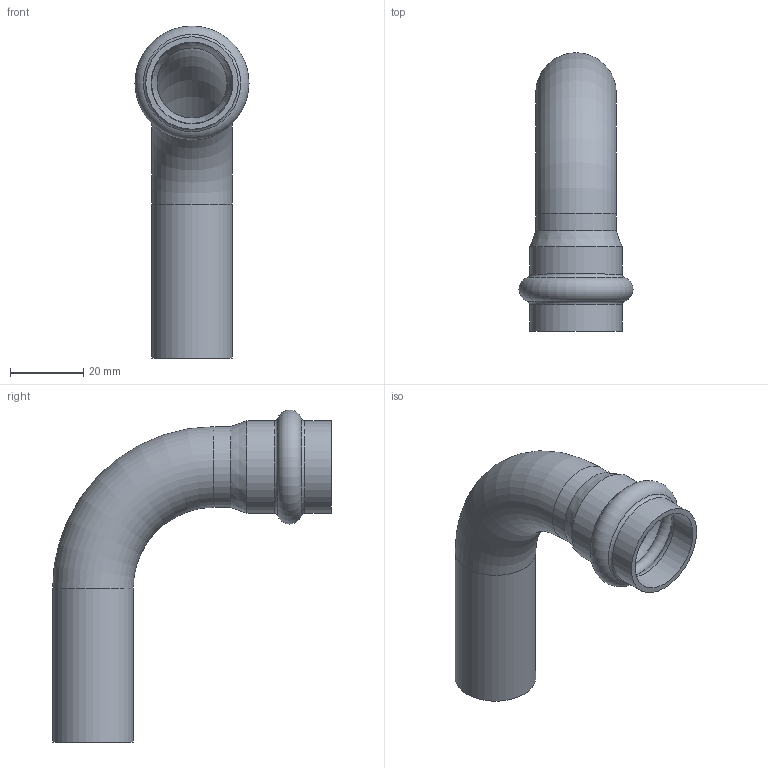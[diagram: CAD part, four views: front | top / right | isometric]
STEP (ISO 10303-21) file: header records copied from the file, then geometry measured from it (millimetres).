
FILE_DESCRIPTION(('STEP AP203'), '1');
FILE_NAME('VTi.950.I.002222', '', ('UNSPECIFIED'), ('UNSPECIFIED'), 'C3D Converter', 'C3D Toolkit', '');
FILE_SCHEMA(('CONFIG_CONTROL_DESIGN'));
Length unit declared in the file: millimetre
Products named in the file (1): ВР.302661.026.000 СБ
Bounding box: 31.1 x 76 x 90.55 mm (x, y, z)
Volume: 13271.5 mm3; surface area: 17692.3 mm2
Topology: 1 solids, 1 shells, 21 faces, 44 edges, 25 vertices
Faces by surface type: torus 9, cylinder 8, plane 2, cone 2
Full cylindrical faces by diameter (mm): 19.1 x2, 22 x2, 22.3 x2, 25.2 x2
Entity records: 508 total; most frequent: DIRECTION 94, CARTESIAN_POINT 72, ORIENTED_EDGE 50, AXIS2_PLACEMENT_3D 47, EDGE_LOOP 42, FACE_OUTER_BOUND 30, EDGE_CURVE 25, VERTEX_POINT 25
